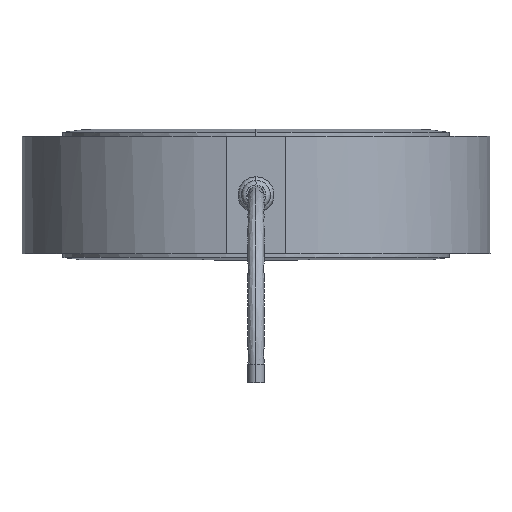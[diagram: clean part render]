
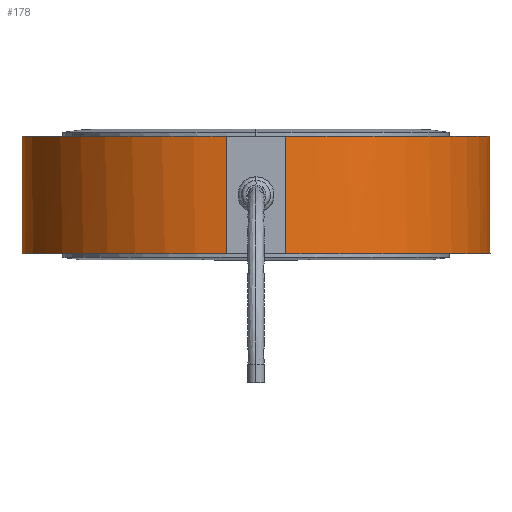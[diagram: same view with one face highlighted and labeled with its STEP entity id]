
A CAD part, front view. The second image highlights one B-rep face of the part: STEP entity #178.
In plain terms, the highlighted free-form (B-spline) face has degree [11, 1] with [12, 2] control points.
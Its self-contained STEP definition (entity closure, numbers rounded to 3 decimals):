
#1 = CARTESIAN_POINT ( 'NONE',  ( -51.962, 42.374, 10.95 ) ) ;
#7 = CARTESIAN_POINT ( 'NONE',  ( 25.09, -43.399, 11.388 ) ) ;
#18 = CARTESIAN_POINT ( 'NONE',  ( -51.046, -22.887, 10.95 ) ) ;
#23 = CARTESIAN_POINT ( 'NONE',  ( 49.824, -27.68, -11.388 ) ) ;
#59 = CARTESIAN_POINT ( 'NONE',  ( 49.824, -27.68, 11.388 ) ) ;
#76 = CARTESIAN_POINT ( 'NONE',  ( -25.09, -43.399, -11.388 ) ) ;
#178 = ADVANCED_FACE ( 'NONE', ( #1662 ), #1659, .T. ) ;
#303 = CARTESIAN_POINT ( 'NONE',  ( -22.91, 70.03, -11.388 ) ) ;
#381 = CARTESIAN_POINT ( 'NONE',  ( 51.96, 42.44, -10.95 ) ) ;
#525 = CARTESIAN_POINT ( 'NONE',  ( -20.891, 67.396, 10.95 ) ) ;
#640 = CARTESIAN_POINT ( 'NONE',  ( -51.962, 42.374, -10.95 ) ) ;
#786 = CARTESIAN_POINT ( 'NONE',  ( 51.96, 42.44, 10.95 ) ) ;
#803 = CARTESIAN_POINT ( 'NONE',  ( 20.892, 67.287, 10.95 ) ) ;
#849 = B_SPLINE_CURVE_WITH_KNOTS ( 'NONE', 11,
 ( #1984, #3100, #3065, #1725, #381, #2279, #2581, #640, #942, #2789, #1779, #2512 ),
 .UNSPECIFIED., .F., .F.,
 ( 12, 12 ),
 ( 0., 0.261 ),
 .UNSPECIFIED. ) ;
#863 = CARTESIAN_POINT ( 'NONE',  ( -0.263, -43.549, 11.388 ) ) ;
#942 = CARTESIAN_POINT ( 'NONE',  ( -61.524, 7.482, -10.95 ) ) ;
#1012 = VERTEX_POINT ( 'NONE', #2064 ) ;
#1096 = CARTESIAN_POINT ( 'NONE',  ( 29.182, -40.186, 10.95 ) ) ;
#1116 = CARTESIAN_POINT ( 'NONE',  ( -49.824, -27.68, -11.388 ) ) ;
#1189 = VERTEX_POINT ( 'NONE', #2893 ) ;
#1263 = DIRECTION ( 'NONE',  ( 0., 0., -1. ) ) ;
#1366 = CARTESIAN_POINT ( 'NONE',  ( 55.649, 41.67, -11.388 ) ) ;
#1380 = CARTESIAN_POINT ( 'NONE',  ( 25.09, -43.399, -11.388 ) ) ;
#1433 = CARTESIAN_POINT ( 'NONE',  ( -0.263, -43.549, -11.388 ) ) ;
#1464 = VECTOR ( 'NONE', #1825, 1000. ) ;
#1608 = CARTESIAN_POINT ( 'NONE',  ( -5.5, -43.201, 10.95 ) ) ;
#1628 = CARTESIAN_POINT ( 'NONE',  ( 55.649, 41.67, 11.388 ) ) ;
#1647 = CARTESIAN_POINT ( 'NONE',  ( 63.617, 3.549, -11.388 ) ) ;
#1651 = ORIENTED_EDGE ( 'NONE', *, *, #3371, .T. ) ;
#1659 = B_SPLINE_SURFACE_WITH_KNOTS ( 'NONE', 11, 1, ( 
 ( #863, #1433 ),
 ( #1909, #76 ),
 ( #2696, #1116 ),
 ( #1924, #2157 ),
 ( #2729, #2747 ),
 ( #1941, #303 ),
 ( #3251, #1893 ),
 ( #1628, #1366 ),
 ( #2436, #1647 ),
 ( #59, #23 ),
 ( #7, #1380 ),
 ( #3025, #2991 ) ),
 .UNSPECIFIED., .F., .F., .F.,
 ( 12, 12 ),
 ( 2, 2 ),
 ( -3.136, 3.136 ),
 ( 0.657, 23.433 ),
 .UNSPECIFIED. ) ;
#1662 = FACE_OUTER_BOUND ( 'NONE', #1724, .T. ) ;
#1699 = CARTESIAN_POINT ( 'NONE',  ( 5.5, -43.201, 10.95 ) ) ;
#1724 = EDGE_LOOP ( 'NONE', ( #3476, #1651, #3484, #2351 ) ) ;
#1725 = CARTESIAN_POINT ( 'NONE',  ( 61.525, 7.467, -10.95 ) ) ;
#1779 = CARTESIAN_POINT ( 'NONE',  ( -29.182, -40.186, -10.95 ) ) ;
#1825 = DIRECTION ( 'NONE',  ( 0., 0., 1. ) ) ;
#1845 = CARTESIAN_POINT ( 'NONE',  ( 5.5, -43.201, 0. ) ) ;
#1872 = CARTESIAN_POINT ( 'NONE',  ( 61.525, 7.467, 10.95 ) ) ;
#1893 = CARTESIAN_POINT ( 'NONE',  ( 22.912, 69.867, -11.388 ) ) ;
#1909 = CARTESIAN_POINT ( 'NONE',  ( -25.09, -43.399, 11.388 ) ) ;
#1924 = CARTESIAN_POINT ( 'NONE',  ( -63.616, 3.581, 11.388 ) ) ;
#1941 = CARTESIAN_POINT ( 'NONE',  ( -22.91, 70.03, 11.388 ) ) ;
#1984 = CARTESIAN_POINT ( 'NONE',  ( 5.5, -43.201, -10.95 ) ) ;
#2064 = CARTESIAN_POINT ( 'NONE',  ( 5.5, -43.201, -10.95 ) ) ;
#2068 = CARTESIAN_POINT ( 'NONE',  ( -5.5, -43.201, -10.95 ) ) ;
#2109 = LINE ( 'NONE', #1845, #2426 ) ;
#2149 = B_SPLINE_CURVE_WITH_KNOTS ( 'NONE', 11,
 ( #1608, #2393, #18, #2431, #1, #525, #803, #786, #1872, #2956, #1096, #3227 ),
 .UNSPECIFIED., .F., .F.,
 ( 12, 12 ),
 ( 0., 0.261 ),
 .UNSPECIFIED. ) ;
#2157 = CARTESIAN_POINT ( 'NONE',  ( -63.616, 3.581, -11.388 ) ) ;
#2263 = EDGE_CURVE ( 'NONE', #1189, #2448, #3186, .T. ) ;
#2279 = CARTESIAN_POINT ( 'NONE',  ( 20.892, 67.287, -10.95 ) ) ;
#2351 = ORIENTED_EDGE ( 'NONE', *, *, #2930, .T. ) ;
#2393 = CARTESIAN_POINT ( 'NONE',  ( -29.182, -40.186, 10.95 ) ) ;
#2426 = VECTOR ( 'NONE', #1263, 1000. ) ;
#2431 = CARTESIAN_POINT ( 'NONE',  ( -61.524, 7.482, 10.95 ) ) ;
#2436 = CARTESIAN_POINT ( 'NONE',  ( 63.617, 3.549, 11.388 ) ) ;
#2448 = VERTEX_POINT ( 'NONE', #3230 ) ;
#2512 = CARTESIAN_POINT ( 'NONE',  ( -5.5, -43.201, -10.95 ) ) ;
#2581 = CARTESIAN_POINT ( 'NONE',  ( -20.891, 67.396, -10.95 ) ) ;
#2696 = CARTESIAN_POINT ( 'NONE',  ( -49.824, -27.68, 11.388 ) ) ;
#2729 = CARTESIAN_POINT ( 'NONE',  ( -55.651, 41.567, 11.388 ) ) ;
#2747 = CARTESIAN_POINT ( 'NONE',  ( -55.651, 41.567, -11.388 ) ) ;
#2789 = CARTESIAN_POINT ( 'NONE',  ( -51.046, -22.887, -10.95 ) ) ;
#2893 = CARTESIAN_POINT ( 'NONE',  ( -5.5, -43.201, -10.95 ) ) ;
#2930 = EDGE_CURVE ( 'NONE', #2448, #3064, #2149, .T. ) ;
#2956 = CARTESIAN_POINT ( 'NONE',  ( 51.046, -22.891, 10.95 ) ) ;
#2991 = CARTESIAN_POINT ( 'NONE',  ( 0.263, -43.549, -11.388 ) ) ;
#3025 = CARTESIAN_POINT ( 'NONE',  ( 0.263, -43.549, 11.388 ) ) ;
#3064 = VERTEX_POINT ( 'NONE', #1699 ) ;
#3065 = CARTESIAN_POINT ( 'NONE',  ( 51.046, -22.891, -10.95 ) ) ;
#3100 = CARTESIAN_POINT ( 'NONE',  ( 29.182, -40.186, -10.95 ) ) ;
#3186 = LINE ( 'NONE', #2068, #1464 ) ;
#3227 = CARTESIAN_POINT ( 'NONE',  ( 5.5, -43.201, 10.95 ) ) ;
#3230 = CARTESIAN_POINT ( 'NONE',  ( -5.5, -43.201, 10.95 ) ) ;
#3251 = CARTESIAN_POINT ( 'NONE',  ( 22.912, 69.867, 11.388 ) ) ;
#3371 = EDGE_CURVE ( 'NONE', #1012, #1189, #849, .T. ) ;
#3419 = EDGE_CURVE ( 'NONE', #3064, #1012, #2109, .T. ) ;
#3476 = ORIENTED_EDGE ( 'NONE', *, *, #3419, .T. ) ;
#3484 = ORIENTED_EDGE ( 'NONE', *, *, #2263, .T. ) ;
